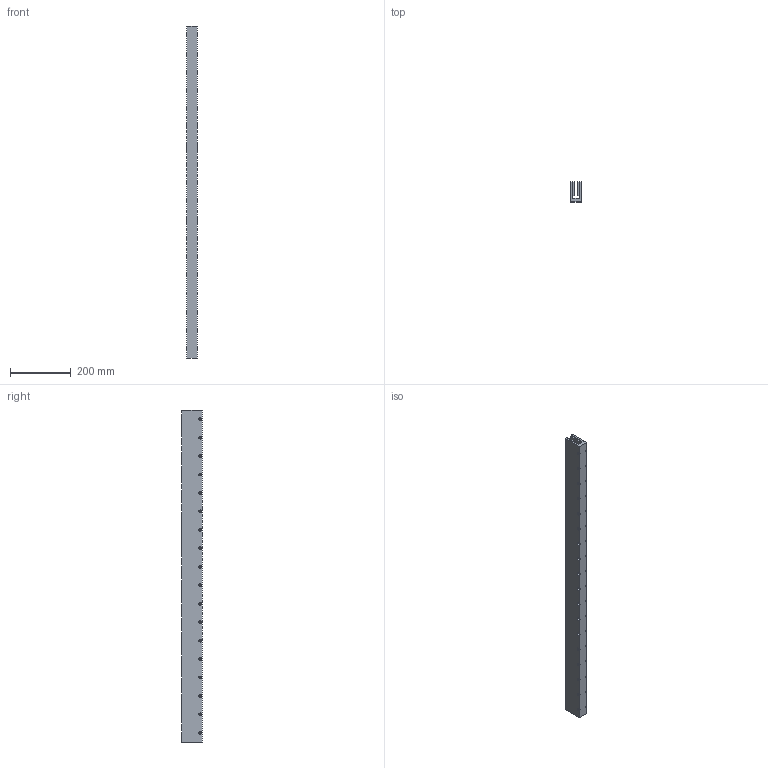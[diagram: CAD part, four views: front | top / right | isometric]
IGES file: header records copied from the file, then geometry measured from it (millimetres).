
Global section: file name: No Iges File Name specified; native system: Autodesk Inventor 2012; preprocessor: AutoDesk Inventor Iges Exporter R2012; author: je17857; date: 20120511.155710; units: inch
Bounding box: 34.29 x 67.31 x 1097.03 mm (x, y, z)
Volume: 1631327.7 mm3; surface area: 415780.6 mm2
Topology: 1 solids, 1 shells, 460 faces, 1050 edges, 700 vertices
Faces by surface type: plane 406, revolution 54
